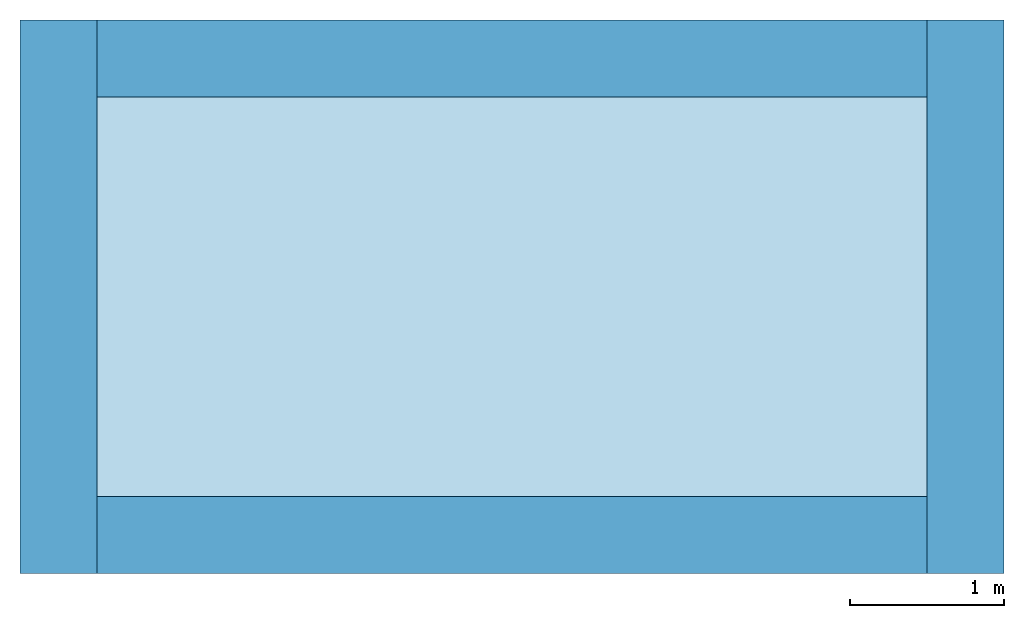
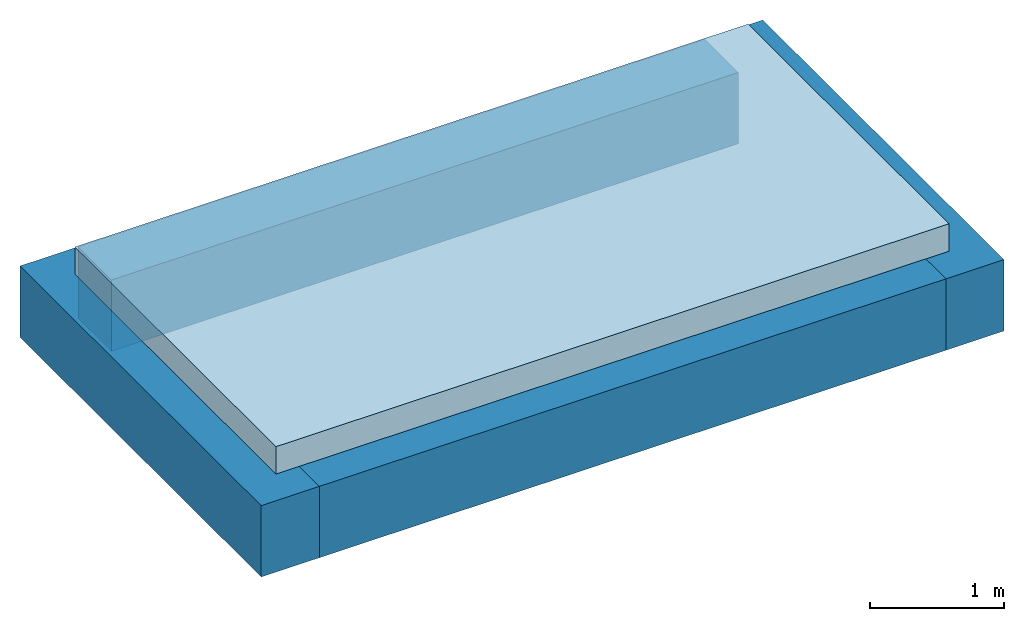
# One storey: 4 footings, 1 slab.
"""IFC4 building model written with IfcOpenShell, lengths in metres."""

from ifc_helpers import new_model, entity, si_unit, converted_unit, derived_unit, frame, frame_2d, origin, place, context, subcontext, project, spatial, rectangle, extrude, material, element, save


model = new_model("IFC4")

# Units and contexts
model_context = context("Model", 3, precision=1e-05, world=origin())
plan_context = context("Plan", 2, precision=1e-05, world=origin())
body_context = subcontext(model_context, "Body", "Model", "MODEL_VIEW")
ifc_project = project(units=[si_unit("LENGTHUNIT", "METRE"), si_unit("AREAUNIT", "SQUARE_METRE"), si_unit("VOLUMEUNIT", "CUBIC_METRE"), si_unit("MASSUNIT", "GRAM", prefix="KILO"), converted_unit("PLANEANGLEUNIT", "DEGREE", entity("IfcPlaneAngleMeasure", 0.0174532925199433), si_unit("PLANEANGLEUNIT", "RADIAN"), dimensions=[0, 0, 0, 0, 0, 0, 0]), derived_unit("THERMALTRANSMITTANCEUNIT", [(si_unit("POWERUNIT", "WATT"), 1), (si_unit("THERMODYNAMICTEMPERATUREUNIT", "KELVIN"), -1), (si_unit("LENGTHUNIT", "METRE"), -2)]), derived_unit("VOLUMETRICFLOWRATEUNIT", [(si_unit("LENGTHUNIT", "METRE"), 3), (converted_unit("TIMEUNIT", "hour", entity("IfcTimeMeasure", 3600.0), si_unit("TIMEUNIT", "SECOND"), dimensions=[0, 0, 1, 0, 0, 0, 0]), -1), (si_unit("LENGTHUNIT", "METRE"), -1)])], contexts=[model_context, plan_context])

# Site, building, storey
site_placement = place(None, origin())
site = spatial("IfcSite", under=ifc_project, at=site_placement, Name="Site", CompositionType="ELEMENT")
building_placement = place(site_placement, origin())
building = spatial("IfcBuilding", under=site, at=building_placement, Name="PosteGarde", CompositionType="ELEMENT")
storey_placement = place(building_placement, frame((0.0, 0.0, -0.02)))
storey = spatial("IfcBuildingStorey", under=building, at=storey_placement, Name="-01-Fondations", CompositionType="ELEMENT", Elevation=-0.02)

# Footings
ifc_material_1 = material(Name="C30/37")
footing_1_placement = place(storey_placement, frame((85.025368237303, 1.9496098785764, 0.0), z_axis=(0.0, 0.0, 1.0), x_axis=(0.0, 1.0, 0.0)))
element("IfcFooting", 1, at=footing_1_placement, inside=storey, material=ifc_material_1, Name="Bêche PosteGarde", PredefinedType="STRIP_FOOTING", context=body_context, shape_type="SweptSolid", body=[
    extrude(rectangle(XDim=0.5, YDim=0.65, at=frame_2d((0.25, 0.325), x_axis=(1.0, 0.0))), frame((0.0, 0.0, 0.0), z_axis=(1.0, 0.0, 0.0), x_axis=(0.0, 1.0, 0.0)), (0.0, 0.0, 1.0), 3.6),
])
ifc_material_2 = material(Name="C30/37")
footing_2_placement = place(storey_placement, frame((78.625368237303, 5.5496098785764, 0.0), z_axis=(0.0, 0.0, 1.0), x_axis=(0.0, -1.0, 0.0)))
element("IfcFooting", 2, at=footing_2_placement, inside=storey, material=ifc_material_2, Name="Bêche PosteGarde", PredefinedType="STRIP_FOOTING", context=body_context, shape_type="SweptSolid", body=[
    extrude(rectangle(XDim=0.5, YDim=0.65, at=frame_2d((0.25, 0.325), x_axis=(1.0, 0.0))), frame((0.0, 0.0, 0.0), z_axis=(1.0, 0.0, 0.0), x_axis=(0.0, 1.0, 0.0)), (0.0, 0.0, 1.0), 3.6),
])
ifc_material_3 = material(Name="C30/37")
footing_3_placement = place(storey_placement, frame((84.525368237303, 5.5496098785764, 0.0), z_axis=(0.0, 0.0, 1.0), x_axis=(-1.0, 0.0, 0.0)))
element("IfcFooting", 3, at=footing_3_placement, inside=storey, material=ifc_material_3, Name="Bêche PosteGarde", PredefinedType="STRIP_FOOTING", context=body_context, shape_type="SweptSolid", body=[
    extrude(rectangle(XDim=0.5, YDim=0.65, at=frame_2d((0.25, 0.325), x_axis=(1.0, 0.0))), frame((0.0, 0.0, 0.0), z_axis=(1.0, 0.0, 0.0), x_axis=(0.0, 1.0, 0.0)), (0.0, 0.0, 1.0), 5.4),
])
ifc_material_4 = material(Name="C30/37")
footing_4_placement = place(storey_placement, frame((79.125368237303, 1.9496098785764, 0.0)))
element("IfcFooting", 4, at=footing_4_placement, inside=storey, material=ifc_material_4, Name="Bêche PosteGarde", PredefinedType="STRIP_FOOTING", context=body_context, shape_type="SweptSolid", body=[
    extrude(rectangle(XDim=0.5, YDim=0.65, at=frame_2d((0.25, 0.325), x_axis=(1.0, 0.0))), frame((0.0, 0.0, 0.0), z_axis=(1.0, 0.0, 0.0), x_axis=(0.0, 1.0, 0.0)), (0.0, 0.0, 1.0), 5.4),
])

# Slab
ifc_material_5 = material(Name="C30/37")
slab_placement = place(storey_placement, frame((78.925368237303, 2.2496098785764, 0.65)))
element("IfcSlab", 5, at=slab_placement, inside=storey, material=ifc_material_5, Name="Radier PosteGarde", PredefinedType="FLOOR", context=body_context, shape_type="SweptSolid", body=[
    extrude(rectangle(XDim=3.0, YDim=5.8, at=frame_2d((2.9, -1.5), x_axis=(0.0, -1.0))), frame((0.0, 3.0, 0.0), z_axis=(0.0, 0.0, 1.0), x_axis=(1.0, 0.0, 0.0)), (0.0, 0.0, 1.0), 0.25),
])

save(model, "model.ifc")
